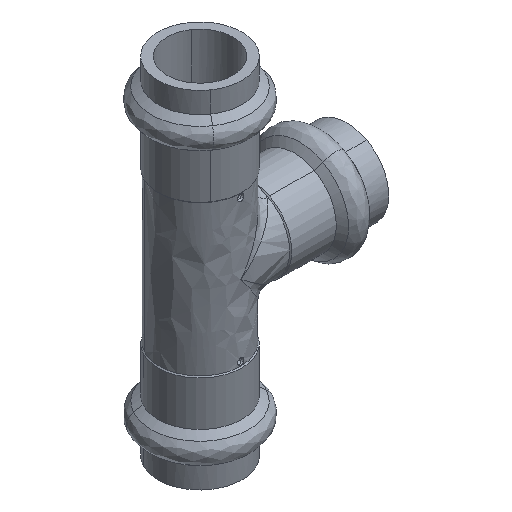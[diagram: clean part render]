
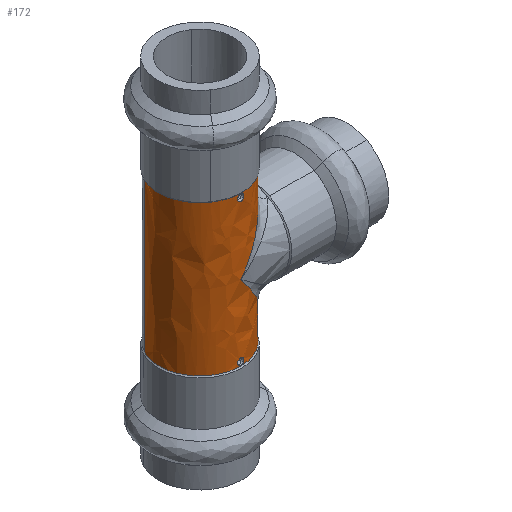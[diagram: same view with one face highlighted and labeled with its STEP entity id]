
A CAD part, isometric view. The second image highlights one B-rep face of the part: STEP entity #172.
In plain terms, the highlighted free-form (B-spline) face has degree [1, 2] with [2, 5] control points.
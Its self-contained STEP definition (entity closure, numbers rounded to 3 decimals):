
#172=ADVANCED_FACE('',(#381,#382,#383),#384,.T.);
#381=FACE_OUTER_BOUND('',#1293,.T.);
#382=FACE_BOUND('',#1294,.T.);
#383=FACE_BOUND('',#1295,.T.);
#384=(B_SPLINE_SURFACE(1,2,((#1297,#1298,#1299,#1300,#1301),(#1302,#1303,#1304,#1305,#1306)),.UNSPECIFIED.,.F.,.F.,.F.)B_SPLINE_SURFACE_WITH_KNOTS((2,2),(3,2,3),(0.0,1.0),(0.0,0.5,1.0),.UNSPECIFIED.)RATIONAL_B_SPLINE_SURFACE(((1.0,0.707,1.0,0.707,1.0),(1.0,0.707,1.0,0.707,1.0)))BOUNDED_SURFACE()REPRESENTATION_ITEM('')GEOMETRIC_REPRESENTATION_ITEM()SURFACE());
#1293=EDGE_LOOP('',(#2255,#2256,#2257,#2258,#2259,#2260,#2261,#2262,#2263));
#1294=EDGE_LOOP('',(#2264,#2265));
#1295=EDGE_LOOP('',(#2266,#2267));
#1297=CARTESIAN_POINT('',(6.845,-3.74,-14.3));
#1298=CARTESIAN_POINT('',(3.106,-10.585,-14.3));
#1299=CARTESIAN_POINT('',(-3.74,-6.845,-14.3));
#1300=CARTESIAN_POINT('',(-10.585,-3.106,-14.3));
#1301=CARTESIAN_POINT('',(-6.845,3.74,-14.3));
#1302=CARTESIAN_POINT('',(6.845,-3.74,14.3));
#1303=CARTESIAN_POINT('',(3.106,-10.585,14.3));
#1304=CARTESIAN_POINT('',(-3.74,-6.845,14.3));
#1305=CARTESIAN_POINT('',(-10.585,-3.106,14.3));
#1306=CARTESIAN_POINT('',(-6.845,3.74,14.3));
#2255=ORIENTED_EDGE('',*,*,#2779,.F.);
#2256=ORIENTED_EDGE('',*,*,#2736,.F.);
#2257=ORIENTED_EDGE('',*,*,#2756,.F.);
#2258=ORIENTED_EDGE('',*,*,#2758,.F.);
#2259=ORIENTED_EDGE('',*,*,#2731,.F.);
#2260=ORIENTED_EDGE('',*,*,#2780,.F.);
#2261=ORIENTED_EDGE('',*,*,#2687,.F.);
#2262=ORIENTED_EDGE('',*,*,#2729,.F.);
#2263=ORIENTED_EDGE('',*,*,#2662,.F.);
#2264=ORIENTED_EDGE('',*,*,#2781,.T.);
#2265=ORIENTED_EDGE('',*,*,#2782,.T.);
#2266=ORIENTED_EDGE('',*,*,#2783,.T.);
#2267=ORIENTED_EDGE('',*,*,#2784,.T.);
#2662=EDGE_CURVE('',#2994,#2996,#2997,.T.);
#2687=EDGE_CURVE('',#3033,#3035,#3036,.T.);
#2729=EDGE_CURVE('',#2996,#3033,#3098,.T.);
#2731=EDGE_CURVE('',#3099,#3092,#3101,.T.);
#2736=EDGE_CURVE('',#3107,#3109,#3110,.T.);
#2756=EDGE_CURVE('',#3137,#3107,#3139,.T.);
#2758=EDGE_CURVE('',#3092,#3137,#3141,.T.);
#2779=EDGE_CURVE('',#3109,#2994,#3172,.T.);
#2780=EDGE_CURVE('',#3035,#3099,#3173,.T.);
#2781=EDGE_CURVE('',#3174,#3175,#3176,.T.);
#2782=EDGE_CURVE('',#3175,#3174,#3177,.T.);
#2783=EDGE_CURVE('',#3178,#3179,#3180,.T.);
#2784=EDGE_CURVE('',#3179,#3178,#3181,.T.);
#2994=VERTEX_POINT('',#3709);
#2996=VERTEX_POINT('',#3712);
#2997=CIRCLE('',#3713,7.8);
#3033=VERTEX_POINT('',#3793);
#3035=VERTEX_POINT('',#3795);
#3036=CIRCLE('',#3796,7.8);
#3092=VERTEX_POINT('',#3968);
#3098=LINE('',#3994,#3995);
#3099=VERTEX_POINT('',#3996);
#3101=LINE('',#3998,#3999);
#3107=VERTEX_POINT('',#4049);
#3109=VERTEX_POINT('',#4060);
#3110=LINE('',#4061,#4062);
#3137=VERTEX_POINT('',#4193);
#3139=B_SPLINE_CURVE_WITH_KNOTS('',3,(#4210,#4211,#4212,#4213,#4214,#4215,#4216,#4217,#4218,#4219),.UNSPECIFIED.,.F.,.F.,(4,2,2,2,4),(0.0,0.25,0.5,0.75,1.0),.UNSPECIFIED.);
#3141=B_SPLINE_CURVE_WITH_KNOTS('',3,(#4221,#4222,#4223,#4224,#4225,#4226,#4227,#4228,#4229,#4230),.UNSPECIFIED.,.F.,.F.,(4,2,2,2,4),(0.0,0.25,0.5,0.75,1.0),.UNSPECIFIED.);
#3172=CIRCLE('',#4369,7.8);
#3173=CIRCLE('',#4370,7.8);
#3174=VERTEX_POINT('',#4371);
#3175=VERTEX_POINT('',#4372);
#3176=B_SPLINE_CURVE_WITH_KNOTS('',3,(#4373,#4374,#4375,#4376,#4377,#4378,#4379,#4380,#4381,#4382),.UNSPECIFIED.,.F.,.F.,(4,2,2,2,4),(0.0,0.25,0.5,0.75,1.0),.UNSPECIFIED.);
#3177=B_SPLINE_CURVE_WITH_KNOTS('',3,(#4383,#4384,#4385,#4386,#4387,#4388,#4389,#4390,#4391,#4392),.UNSPECIFIED.,.F.,.F.,(4,2,2,2,4),(0.0,0.25,0.5,0.75,1.0),.UNSPECIFIED.);
#3178=VERTEX_POINT('',#4393);
#3179=VERTEX_POINT('',#4394);
#3180=B_SPLINE_CURVE_WITH_KNOTS('',3,(#4395,#4396,#4397,#4398,#4399,#4400,#4401,#4402,#4403,#4404),.UNSPECIFIED.,.F.,.F.,(4,2,2,2,4),(0.0,0.25,0.5,0.75,1.0),.UNSPECIFIED.);
#3181=B_SPLINE_CURVE_WITH_KNOTS('',3,(#4405,#4406,#4407,#4408,#4409,#4410,#4411,#4412,#4413,#4414),.UNSPECIFIED.,.F.,.F.,(4,2,2,2,4),(0.0,0.25,0.5,0.75,1.0),.UNSPECIFIED.);
#3709=CARTESIAN_POINT('',(6.828,-3.771,-14.3));
#3712=CARTESIAN_POINT('',(-6.845,3.74,-14.3));
#3713=AXIS2_PLACEMENT_3D('',#4968,#4969,#4970);
#3793=CARTESIAN_POINT('',(-6.845,3.74,14.3));
#3795=CARTESIAN_POINT('',(-4.422,-6.426,14.3));
#3796=AXIS2_PLACEMENT_3D('',#4994,#4995,#4996);
#3968=CARTESIAN_POINT('',(6.845,-3.74,9.039));
#3994=CARTESIAN_POINT('',(-6.845,3.74,-14.3));
#3995=VECTOR('',#5033,1.0);
#3996=CARTESIAN_POINT('',(6.845,-3.74,14.3));
#3998=CARTESIAN_POINT('',(6.845,-3.74,14.3));
#3999=VECTOR('',#5037,1.0);
#4049=CARTESIAN_POINT('',(6.845,-3.74,-9.039));
#4060=CARTESIAN_POINT('',(6.845,-3.74,-14.3));
#4061=CARTESIAN_POINT('',(6.845,-3.74,-9.039));
#4062=VECTOR('',#5038,1.0);
#4193=CARTESIAN_POINT('',(0.,-7.8,0.));
#4210=CARTESIAN_POINT('',(0.,-7.8,0.));
#4211=CARTESIAN_POINT('',(0.621,-7.8,-0.821));
#4212=CARTESIAN_POINT('',(1.244,-7.726,-1.643));
#4213=CARTESIAN_POINT('',(2.475,-7.424,-3.268));
#4214=CARTESIAN_POINT('',(3.083,-7.196,-4.071));
#4215=CARTESIAN_POINT('',(4.269,-6.563,-5.637));
#4216=CARTESIAN_POINT('',(4.845,-6.158,-6.398));
#4217=CARTESIAN_POINT('',(5.923,-5.129,-7.822));
#4218=CARTESIAN_POINT('',(6.428,-4.503,-8.488));
#4219=CARTESIAN_POINT('',(6.845,-3.74,-9.039));
#4221=CARTESIAN_POINT('',(6.845,-3.74,9.039));
#4222=CARTESIAN_POINT('',(6.428,-4.503,8.489));
#4223=CARTESIAN_POINT('',(5.923,-5.129,7.822));
#4224=CARTESIAN_POINT('',(4.845,-6.158,6.399));
#4225=CARTESIAN_POINT('',(4.268,-6.563,5.637));
#4226=CARTESIAN_POINT('',(3.083,-7.196,4.072));
#4227=CARTESIAN_POINT('',(2.474,-7.424,3.268));
#4228=CARTESIAN_POINT('',(1.244,-7.726,1.643));
#4229=CARTESIAN_POINT('',(0.622,-7.8,0.821));
#4230=CARTESIAN_POINT('',(0.,-7.8,0.));
#4369=AXIS2_PLACEMENT_3D('',#5042,#5043,#5044);
#4370=AXIS2_PLACEMENT_3D('',#5045,#5046,#5047);
#4371=CARTESIAN_POINT('',(0.549,-7.781,-13.829));
#4372=CARTESIAN_POINT('',(-0.55,-7.781,-13.272));
#4373=CARTESIAN_POINT('',(0.549,-7.781,-13.829));
#4374=CARTESIAN_POINT('',(0.477,-7.786,-13.975));
#4375=CARTESIAN_POINT('',(0.348,-7.794,-14.09));
#4376=CARTESIAN_POINT('',(0.042,-7.801,-14.194));
#4377=CARTESIAN_POINT('',(-0.133,-7.8,-14.181));
#4378=CARTESIAN_POINT('',(-0.42,-7.79,-14.033));
#4379=CARTESIAN_POINT('',(-0.533,-7.782,-13.901));
#4380=CARTESIAN_POINT('',(-0.634,-7.774,-13.591));
#4381=CARTESIAN_POINT('',(-0.622,-7.776,-13.419));
#4382=CARTESIAN_POINT('',(-0.55,-7.781,-13.272));
#4383=CARTESIAN_POINT('',(-0.55,-7.781,-13.272));
#4384=CARTESIAN_POINT('',(-0.478,-7.786,-13.125));
#4385=CARTESIAN_POINT('',(-0.349,-7.794,-13.011));
#4386=CARTESIAN_POINT('',(-0.042,-7.801,-12.906));
#4387=CARTESIAN_POINT('',(0.133,-7.8,-12.919));
#4388=CARTESIAN_POINT('',(0.42,-7.79,-13.067));
#4389=CARTESIAN_POINT('',(0.533,-7.782,-13.199));
#4390=CARTESIAN_POINT('',(0.634,-7.774,-13.51));
#4391=CARTESIAN_POINT('',(0.622,-7.776,-13.682));
#4392=CARTESIAN_POINT('',(0.549,-7.781,-13.829));
#4393=CARTESIAN_POINT('',(-0.554,-7.78,13.819));
#4394=CARTESIAN_POINT('',(0.549,-7.781,13.271));
#4395=CARTESIAN_POINT('',(-0.554,-7.78,13.819));
#4396=CARTESIAN_POINT('',(-0.484,-7.785,13.968));
#4397=CARTESIAN_POINT('',(-0.356,-7.793,14.085));
#4398=CARTESIAN_POINT('',(-0.049,-7.801,14.194));
#4399=CARTESIAN_POINT('',(0.127,-7.8,14.182));
#4400=CARTESIAN_POINT('',(0.417,-7.79,14.036));
#4401=CARTESIAN_POINT('',(0.531,-7.782,13.904));
#4402=CARTESIAN_POINT('',(0.634,-7.774,13.591));
#4403=CARTESIAN_POINT('',(0.622,-7.776,13.419));
#4404=CARTESIAN_POINT('',(0.549,-7.781,13.271));
#4405=CARTESIAN_POINT('',(0.549,-7.781,13.271));
#4406=CARTESIAN_POINT('',(0.478,-7.786,13.125));
#4407=CARTESIAN_POINT('',(0.349,-7.794,13.011));
#4408=CARTESIAN_POINT('',(0.045,-7.801,12.907));
#4409=CARTESIAN_POINT('',(-0.129,-7.8,12.919));
#4410=CARTESIAN_POINT('',(-0.416,-7.79,13.063));
#4411=CARTESIAN_POINT('',(-0.529,-7.782,13.194));
#4412=CARTESIAN_POINT('',(-0.633,-7.774,13.501));
#4413=CARTESIAN_POINT('',(-0.623,-7.775,13.671));
#4414=CARTESIAN_POINT('',(-0.554,-7.78,13.819));
#4968=CARTESIAN_POINT('',(0.,0.,-14.3));
#4969=DIRECTION('',(0.,0.,-1.0));
#4970=DIRECTION('',(-0.483,-0.875,0.));
#4994=CARTESIAN_POINT('',(0.,0.,14.3));
#4995=DIRECTION('',(0.0,0.0,1.0));
#4996=DIRECTION('',(0.824,-0.567,0.0));
#5033=DIRECTION('',(0.,0.,1.0));
#5037=DIRECTION('',(0.,0.,-1.0));
#5038=DIRECTION('',(0.,0.,-1.0));
#5042=CARTESIAN_POINT('',(0.,0.,-14.3));
#5043=DIRECTION('',(0.,0.,-1.0));
#5044=DIRECTION('',(-0.483,-0.875,0.));
#5045=CARTESIAN_POINT('',(0.,0.,14.3));
#5046=DIRECTION('',(0.0,0.0,1.0));
#5047=DIRECTION('',(0.824,-0.567,0.0));
